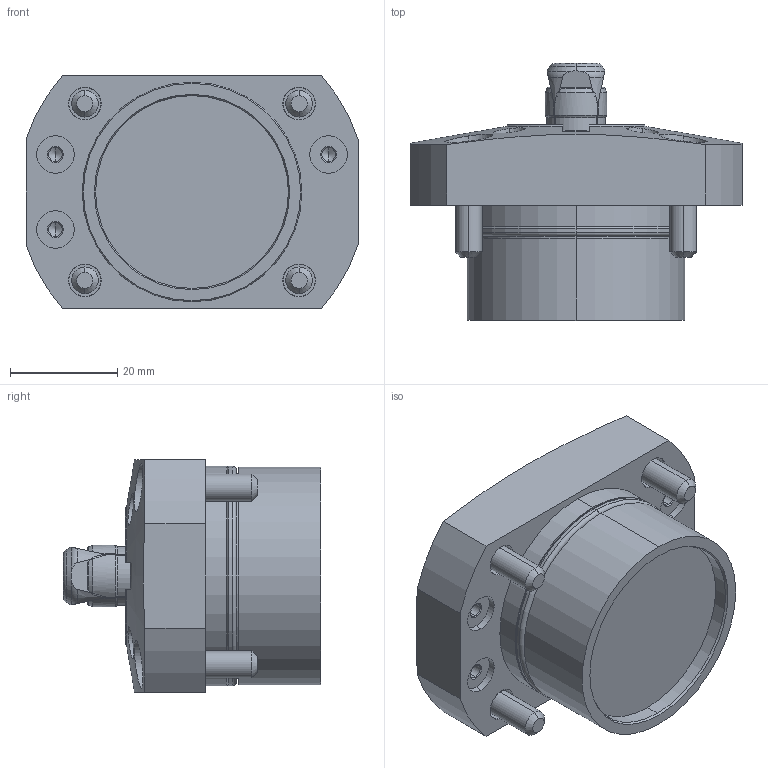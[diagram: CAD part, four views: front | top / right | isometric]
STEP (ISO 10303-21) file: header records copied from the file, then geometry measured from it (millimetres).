
FILE_DESCRIPTION (( 'STEP AP203' ), '1' );
FILE_NAME ('SFH2120_N.STEP', '2010-11-03T23:13:22', ( ' ' ), ( ' ' ), 'SwSTEP 2.0', 'SolidWorks 2010', '' );
FILE_SCHEMA (( 'CONFIG_CONTROL_DESIGN' ));
Length unit declared in the file: millimetre
Products named in the file (7): SFH2120_N; 6妏寠晅无倌_M3_10; SFH2120-N_套菁轤礁诎蔬晅; SFH2_钾堇轤O剌皋晅; φ12_ｽﾘｰﾌﾞ-N; 冇12_郫霓; 6妏寠晅无倌_M5_16
Assembly tree (12 placements, depth 2):
  SFH2120_N
    φ12_ｽﾘｰﾌﾞ-N
    6妏寠晅无倌_M5_16  x4
    SFH2_钾堇轤O剌皋晅
    冇12_郫霓
    6妏寠晅无倌_M3_10  x4
    SFH2120-N_套菁轤礁诎蔬晅
Bounding box: 62 x 48 x 43.5 mm (x, y, z)
Volume: 59278.6 mm3; surface area: 21378.9 mm2
Topology: 16 solids, 16 shells, 480 faces, 979 edges, 542 vertices
Faces by surface type: plane 187, cone 156, cylinder 118, torus 19
Entity records: 9723 total; most frequent: CARTESIAN_POINT 2336, DIRECTION 1438, ORIENTED_EDGE 1286, EDGE_CURVE 643, AXIS2_PLACEMENT_3D 600, VERTEX_POINT 392, EDGE_LOOP 335, ADVANCED_FACE 294
